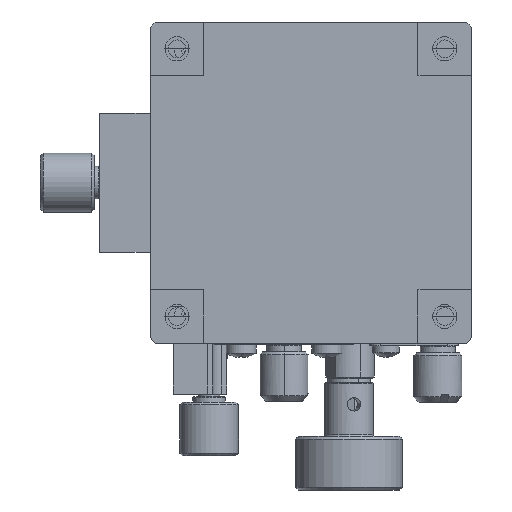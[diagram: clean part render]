
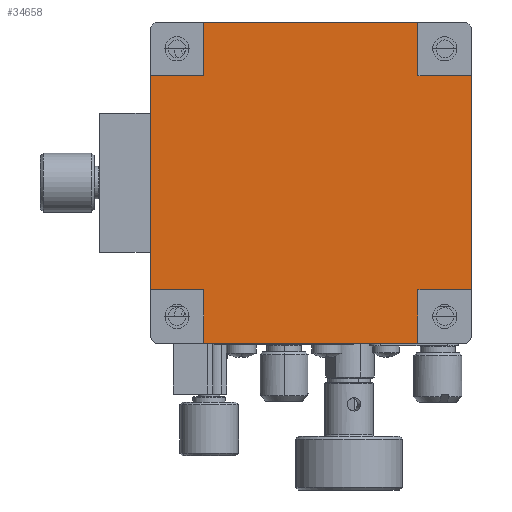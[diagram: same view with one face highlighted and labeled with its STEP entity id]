
A CAD part, front view. The second image highlights one B-rep face of the part: STEP entity #34658.
In plain terms, the highlighted planar face has unit normal (0, -1, 0).
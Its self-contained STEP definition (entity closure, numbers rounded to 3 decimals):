
#3167 = VERTEX_POINT ( 'NONE', #117451 ) ;
#3377 = VERTEX_POINT ( 'NONE', #110776 ) ;
#3648 = DIRECTION ( 'NONE',  ( 0., 0., -1. ) ) ;
#3991 = CARTESIAN_POINT ( 'NONE',  ( -10., -16.6, -0.1 ) ) ;
#4270 = LINE ( 'NONE', #51391, #36875 ) ;
#5887 = VERTEX_POINT ( 'NONE', #36945 ) ;
#9857 = VERTEX_POINT ( 'NONE', #3991 ) ;
#12155 = DIRECTION ( 'NONE',  ( 0., 0., 1. ) ) ;
#14015 = CARTESIAN_POINT ( 'NONE',  ( -10., -16.6, 0. ) ) ;
#15393 = CARTESIAN_POINT ( 'NONE',  ( -50., -16.6, -50. ) ) ;
#16196 = EDGE_CURVE ( 'NONE', #95753, #24512, #95667, .T. ) ;
#19344 = EDGE_CURVE ( 'NONE', #50806, #86439, #65463, .T. ) ;
#19906 = EDGE_CURVE ( 'NONE', #140285, #3377, #92642, .T. ) ;
#21063 = LINE ( 'NONE', #99905, #110046 ) ;
#22654 = ORIENTED_EDGE ( 'NONE', *, *, #139029, .F. ) ;
#23402 = DIRECTION ( 'NONE',  ( 0., 0., -1. ) ) ;
#23938 = ORIENTED_EDGE ( 'NONE', *, *, #36501, .F. ) ;
#24512 = VERTEX_POINT ( 'NONE', #92410 ) ;
#25206 = VECTOR ( 'NONE', #66447, 1000. ) ;
#25297 = AXIS2_PLACEMENT_3D ( 'NONE', #139446, #73759, #85547 ) ;
#25694 = ORIENTED_EDGE ( 'NONE', *, *, #91545, .F. ) ;
#27009 = DIRECTION ( 'NONE',  ( -1., 0., 0. ) ) ;
#32141 = VECTOR ( 'NONE', #140710, 1000. ) ;
#33902 = CARTESIAN_POINT ( 'NONE',  ( -30., -16.6, -0.1 ) ) ;
#33975 = ORIENTED_EDGE ( 'NONE', *, *, #19906, .F. ) ;
#34252 = ORIENTED_EDGE ( 'NONE', *, *, #75973, .T. ) ;
#34368 = CARTESIAN_POINT ( 'NONE',  ( -50., -16.6, -60. ) ) ;
#34658 = ADVANCED_FACE ( 'NONE', ( #140146 ), #129084, .T. ) ;
#36085 = LINE ( 'NONE', #33902, #53622 ) ;
#36501 = EDGE_CURVE ( 'NONE', #9857, #88308, #126790, .T. ) ;
#36875 = VECTOR ( 'NONE', #84590, 1000. ) ;
#36945 = CARTESIAN_POINT ( 'NONE',  ( -10., -16.6, -50. ) ) ;
#37147 = CARTESIAN_POINT ( 'NONE',  ( -50., -16.6, -10. ) ) ;
#39253 = CARTESIAN_POINT ( 'NONE',  ( 0., -16.6, -10. ) ) ;
#41304 = VECTOR ( 'NONE', #142872, 1000. ) ;
#42870 = LINE ( 'NONE', #124633, #25206 ) ;
#47679 = CARTESIAN_POINT ( 'NONE',  ( -60., -16.6, -50. ) ) ;
#50806 = VERTEX_POINT ( 'NONE', #91876 ) ;
#51391 = CARTESIAN_POINT ( 'NONE',  ( -60., -16.6, -60. ) ) ;
#53622 = VECTOR ( 'NONE', #78884, 1000. ) ;
#57402 = VERTEX_POINT ( 'NONE', #34368 ) ;
#58369 = VECTOR ( 'NONE', #92392, 1000. ) ;
#58494 = LINE ( 'NONE', #39253, #58369 ) ;
#62991 = EDGE_CURVE ( 'NONE', #5887, #120695, #145835, .T. ) ;
#65463 = LINE ( 'NONE', #86840, #32141 ) ;
#66447 = DIRECTION ( 'NONE',  ( 0., 0., 1. ) ) ;
#67435 = LINE ( 'NONE', #132426, #136058 ) ;
#68658 = EDGE_CURVE ( 'NONE', #88308, #24512, #58494, .T. ) ;
#69925 = LINE ( 'NONE', #82466, #103963 ) ;
#73759 = DIRECTION ( 'NONE',  ( 0., -1., 0. ) ) ;
#75457 = EDGE_LOOP ( 'NONE', ( #77363, #122846, #105355, #126699, #33975, #25694, #34252, #92363, #22654, #106247, #111812, #23938 ) ) ;
#75973 = EDGE_CURVE ( 'NONE', #57402, #120695, #4270, .T. ) ;
#77363 = ORIENTED_EDGE ( 'NONE', *, *, #92138, .F. ) ;
#78884 = DIRECTION ( 'NONE',  ( 1., 0., 0. ) ) ;
#82252 = VECTOR ( 'NONE', #23402, 1000. ) ;
#82466 = CARTESIAN_POINT ( 'NONE',  ( 0., -16.6, -50. ) ) ;
#83898 = CARTESIAN_POINT ( 'NONE',  ( 0., -16.6, -60. ) ) ;
#84590 = DIRECTION ( 'NONE',  ( 1., 0., 0. ) ) ;
#85547 = DIRECTION ( 'NONE',  ( 1., 0., 0. ) ) ;
#86439 = VERTEX_POINT ( 'NONE', #37147 ) ;
#86840 = CARTESIAN_POINT ( 'NONE',  ( -60., -16.6, -10. ) ) ;
#88129 = DIRECTION ( 'NONE',  ( 0., 0., 1. ) ) ;
#88308 = VERTEX_POINT ( 'NONE', #140330 ) ;
#91545 = EDGE_CURVE ( 'NONE', #57402, #140285, #21063, .T. ) ;
#91550 = EDGE_CURVE ( 'NONE', #3377, #50806, #67435, .T. ) ;
#91876 = CARTESIAN_POINT ( 'NONE',  ( -60., -16.6, -10. ) ) ;
#92138 = EDGE_CURVE ( 'NONE', #3167, #9857, #36085, .T. ) ;
#92363 = ORIENTED_EDGE ( 'NONE', *, *, #62991, .F. ) ;
#92392 = DIRECTION ( 'NONE',  ( 1., 0., 0. ) ) ;
#92410 = CARTESIAN_POINT ( 'NONE',  ( 0., -16.6, -10. ) ) ;
#92642 = LINE ( 'NONE', #47679, #98223 ) ;
#93494 = DIRECTION ( 'NONE',  ( -1., 0., 0. ) ) ;
#95667 = LINE ( 'NONE', #83898, #41304 ) ;
#95753 = VERTEX_POINT ( 'NONE', #115410 ) ;
#98223 = VECTOR ( 'NONE', #27009, 1000. ) ;
#99905 = CARTESIAN_POINT ( 'NONE',  ( -50., -16.6, -60. ) ) ;
#103963 = VECTOR ( 'NONE', #93494, 1000. ) ;
#105355 = ORIENTED_EDGE ( 'NONE', *, *, #19344, .F. ) ;
#106247 = ORIENTED_EDGE ( 'NONE', *, *, #16196, .T. ) ;
#106870 = EDGE_CURVE ( 'NONE', #86439, #3167, #42870, .T. ) ;
#110046 = VECTOR ( 'NONE', #12155, 1000. ) ;
#110776 = CARTESIAN_POINT ( 'NONE',  ( -60., -16.6, -50. ) ) ;
#111812 = ORIENTED_EDGE ( 'NONE', *, *, #68658, .F. ) ;
#115170 = CARTESIAN_POINT ( 'NONE',  ( -10., -16.6, -60. ) ) ;
#115410 = CARTESIAN_POINT ( 'NONE',  ( 0., -16.6, -50. ) ) ;
#117162 = VECTOR ( 'NONE', #3648, 1000. ) ;
#117451 = CARTESIAN_POINT ( 'NONE',  ( -50., -16.6, -0.1 ) ) ;
#120695 = VERTEX_POINT ( 'NONE', #115170 ) ;
#122846 = ORIENTED_EDGE ( 'NONE', *, *, #106870, .F. ) ;
#124633 = CARTESIAN_POINT ( 'NONE',  ( -50., -16.6, 0. ) ) ;
#126699 = ORIENTED_EDGE ( 'NONE', *, *, #91550, .F. ) ;
#126790 = LINE ( 'NONE', #14015, #117162 ) ;
#129084 = PLANE ( 'NONE',  #25297 ) ;
#132426 = CARTESIAN_POINT ( 'NONE',  ( -60., -16.6, -60. ) ) ;
#136058 = VECTOR ( 'NONE', #88129, 1000. ) ;
#139029 = EDGE_CURVE ( 'NONE', #95753, #5887, #69925, .T. ) ;
#139446 = CARTESIAN_POINT ( 'NONE',  ( -30., -16.6, -30. ) ) ;
#140146 = FACE_OUTER_BOUND ( 'NONE', #75457, .T. ) ;
#140285 = VERTEX_POINT ( 'NONE', #15393 ) ;
#140330 = CARTESIAN_POINT ( 'NONE',  ( -10., -16.6, -10. ) ) ;
#140710 = DIRECTION ( 'NONE',  ( 1., 0., 0. ) ) ;
#142872 = DIRECTION ( 'NONE',  ( 0., 0., 1. ) ) ;
#145114 = CARTESIAN_POINT ( 'NONE',  ( -10., -16.6, -60. ) ) ;
#145835 = LINE ( 'NONE', #145114, #82252 ) ;
